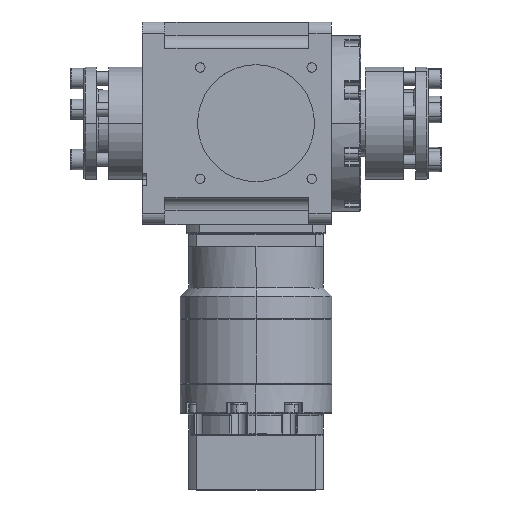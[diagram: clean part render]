
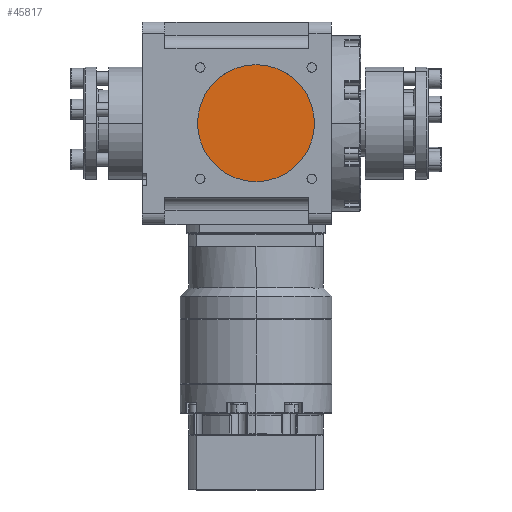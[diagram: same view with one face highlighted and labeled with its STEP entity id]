
A CAD part, top view. The second image highlights one B-rep face of the part: STEP entity #45817.
In plain terms, the highlighted planar face has unit normal (0, 0, 1).
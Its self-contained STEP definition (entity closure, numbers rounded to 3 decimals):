
#466 = VERTEX_POINT ( 'NONE', #50257 ) ;
#3684 = AXIS2_PLACEMENT_3D ( 'NONE', #32771, #48325, #25851 ) ;
#6461 = CIRCLE ( 'NONE', #31701, 26. ) ;
#9950 = DIRECTION ( 'NONE',  ( 0., 0., 1. ) ) ;
#10522 = EDGE_CURVE ( 'NONE', #466, #49257, #6461, .T. ) ;
#11489 = CARTESIAN_POINT ( 'NONE',  ( 17., 0., 41. ) ) ;
#14286 = CARTESIAN_POINT ( 'NONE',  ( 17., 0., 41. ) ) ;
#15324 = CARTESIAN_POINT ( 'NONE',  ( 43., 0., 41. ) ) ;
#19901 = DIRECTION ( 'NONE',  ( -1., 0., 0. ) ) ;
#21634 = CIRCLE ( 'NONE', #24062, 26. ) ;
#24062 = AXIS2_PLACEMENT_3D ( 'NONE', #14286, #9950, #36434 ) ;
#25851 = DIRECTION ( 'NONE',  ( -1., 0., 0. ) ) ;
#27192 = EDGE_LOOP ( 'NONE', ( #46900, #42412 ) ) ;
#31701 = AXIS2_PLACEMENT_3D ( 'NONE', #11489, #46650, #19901 ) ;
#32771 = CARTESIAN_POINT ( 'NONE',  ( 17., 0., 41. ) ) ;
#33259 = FACE_OUTER_BOUND ( 'NONE', #27192, .T. ) ;
#36434 = DIRECTION ( 'NONE',  ( -1., 0., 0. ) ) ;
#36605 = EDGE_CURVE ( 'NONE', #49257, #466, #21634, .T. ) ;
#42412 = ORIENTED_EDGE ( 'NONE', *, *, #10522, .T. ) ;
#44721 = PLANE ( 'NONE',  #3684 ) ;
#45817 = ADVANCED_FACE ( 'NONE', ( #33259 ), #44721, .T. ) ;
#46650 = DIRECTION ( 'NONE',  ( 0., 0., 1. ) ) ;
#46900 = ORIENTED_EDGE ( 'NONE', *, *, #36605, .T. ) ;
#48325 = DIRECTION ( 'NONE',  ( 0., 0., 1. ) ) ;
#49257 = VERTEX_POINT ( 'NONE', #15324 ) ;
#50257 = CARTESIAN_POINT ( 'NONE',  ( -9., 0., 41. ) ) ;
